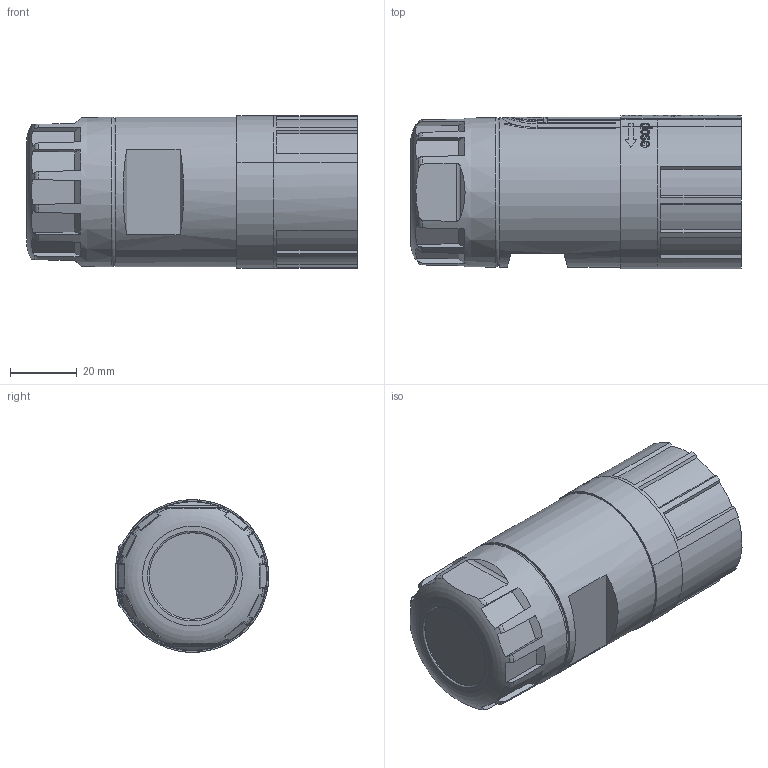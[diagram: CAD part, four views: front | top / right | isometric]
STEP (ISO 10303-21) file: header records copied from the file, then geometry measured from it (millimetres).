
FILE_DESCRIPTION(/* description */ (''),/* implementation_level */ '2;1');
FILE_NAME(/* name */ 'C:\Users\te294955\Desktop\CST_0020_8-polig, Buchse.stp',/* time_stamp */ '2018-04-23T08:57:42+02:00',/* author */ ('TE294955'),/* organization */ (''),/* preprocessor_version */ 'ST-DEVELOPER v15.2',/* originating_system */ 'Autodesk Inventor 2014',/* authorisation */ '');
FILE_SCHEMA (('AUTOMOTIVE_DESIGN { 1 0 10303 214 3 1 1 }'));
Length unit declared in the file: millimetre
Products named in the file (1): 139415
Bounding box: 99.4 x 46.08 x 45.91 mm (x, y, z)
Volume: 139482.4 mm3; surface area: 25945.8 mm2
Topology: 1 solids, 1 shells, 293 faces, 951 edges, 723 vertices
Faces by surface type: plane 126, cylinder 114, bspline 21, torus 17, cone 11, sphere 4
Full cylindrical faces by diameter (mm): 2.2 x4, 3.8 x4, 5 x8, 7 x1, 7.2 x8, 26 x1, 33 x1, 34.15 x2, 35.7 x1, 35.85 x1, 40 x1, 40.6 x1, 40.8 x1, 45 x1
Entity records: 13200 total; most frequent: CARTESIAN_POINT 5034, ORIENTED_EDGE 1784, DIRECTION 1364, EDGE_CURVE 892, VERTEX_POINT 710, AXIS2_PLACEMENT_3D 548, EDGE_LOOP 402, B_SPLINE_CURVE_WITH_KNOTS 325
